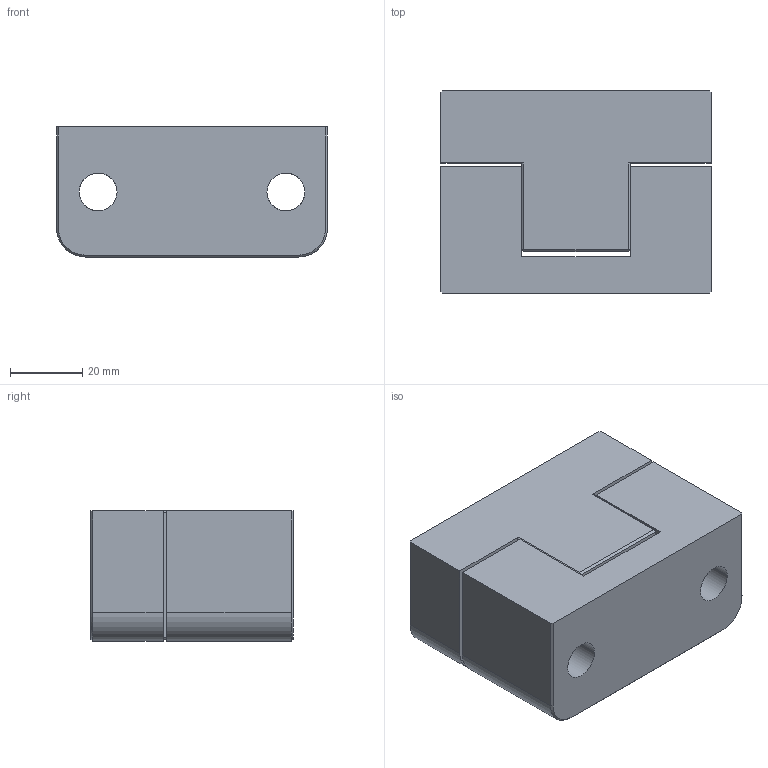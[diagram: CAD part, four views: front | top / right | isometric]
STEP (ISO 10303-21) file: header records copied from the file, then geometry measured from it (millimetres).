
FILE_DESCRIPTION(('CATIA V5 STEP Exchange'),'2;1');
FILE_NAME('C:\Users\Raffaele\Desktop\3D BOLEX\3D FILES CF BOLEX\17-CENTERER REF 505\CL505075.stp','2019-06-20T13:09:42+00:00',('none'),('none'),'CATIA Version 5 Release 20 GA (IN-10)','CATIA V5 STEP AP203','none');
FILE_SCHEMA(('CONFIG_CONTROL_DESIGN'));
Length unit declared in the file: millimetre
Products named in the file (1): CL505075
Assembly tree (2 placements, depth 2):
  CL505075
    #58
    #5877
Bounding box: 75 x 56 x 36 mm (x, y, z)
Volume: 130583.1 mm3; surface area: 31455.9 mm2
Topology: 26 solids, 26 shells, 236 faces, 452 edges, 292 vertices
Faces by surface type: cylinder 120, plane 108, cone 8
Entity records: 6797 total; most frequent: CARTESIAN_POINT 2126, ORIENTED_EDGE 896, DIRECTION 841, EDGE_CURVE 448, AXIS2_PLACEMENT_3D 397, VERTEX_POINT 292, EDGE_LOOP 272, ADVANCED_FACE 236
